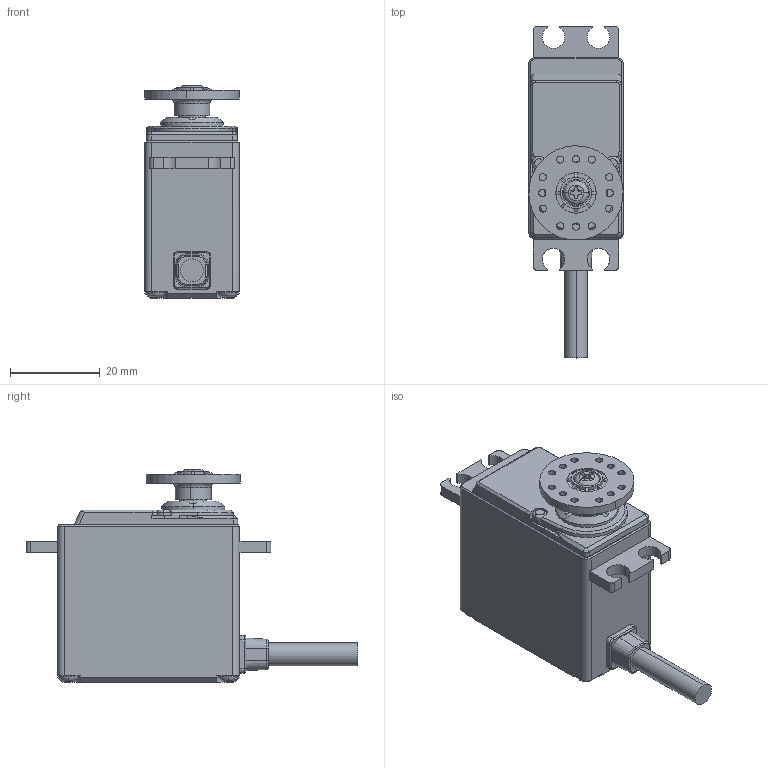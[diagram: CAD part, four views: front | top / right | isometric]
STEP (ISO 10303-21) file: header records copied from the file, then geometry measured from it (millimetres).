
FILE_DESCRIPTION (( 'STEP AP203' ), '1' );
FILE_NAME ('BLA1HH41(3D).STEP', '2022-12-06T04:33:43', ( '' ), ( '' ), 'SwSTEP 2.0', 'SolidWorks 2022', '' );
FILE_SCHEMA (( 'CONFIG_CONTROL_DESIGN' ));
Length unit declared in the file: millimetre
Products named in the file (4): BLA1HH41; BLA1HH41(3D); HORN; SCREW M3x8
Assembly tree (3 placements, depth 2):
  BLA1HH41(3D)
    BLA1HH41
    HORN
    SCREW M3x8
Bounding box: 21 x 73.9 x 47.4 mm (x, y, z)
Volume: 34172.9 mm3; surface area: 8674.9 mm2
Topology: 3 solids, 3 shells, 361 faces, 936 edges, 600 vertices
Faces by surface type: plane 173, cylinder 129, cone 33, bspline 18, torus 8
Entity records: 13185 total; most frequent: CARTESIAN_POINT 4082, ORIENTED_EDGE 1872, DIRECTION 1734, EDGE_CURVE 936, AXIS2_PLACEMENT_3D 624, VERTEX_POINT 600, LINE 486, VECTOR 486
